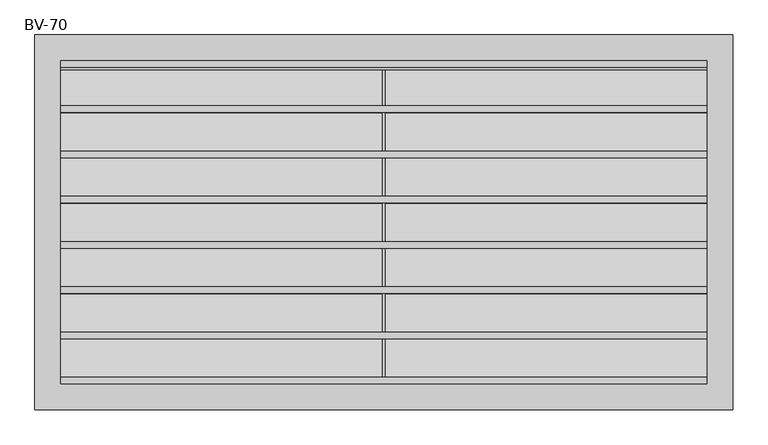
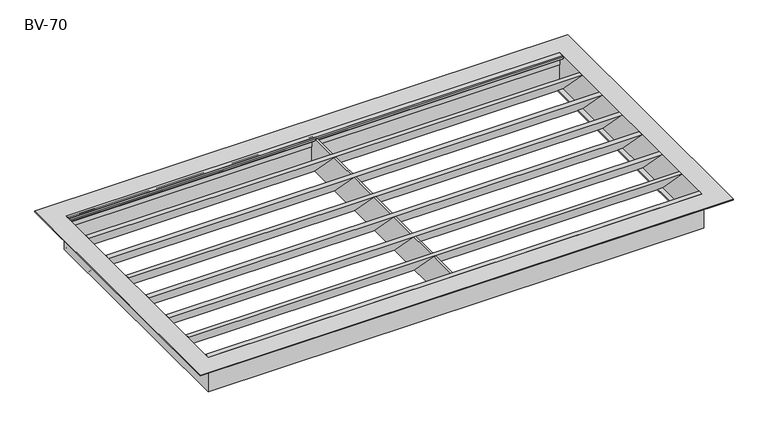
"""IFC4 building model written with IfcOpenShell, lengths in millimetres: air terminal geometry, AIR_FB_Outside air grille BV_SMA : BV-70."""

from ifc_helpers import new_model, si_unit, frame, origin, place, context, project, spatial, polyline, outline, extrude, faceted_brep, source, transform, mapped, element, save


def bv_70_c8e80291(model_context):
    return source(origin(), model_context, "Body", "SolidModel", [
        extrude(outline(polyline([(180.0694981, 2.0), (180.0694981, 0.6939238), (172.3735338, 0.6939238), (239.9430991, -68.8), (248.800293, -68.8), (248.800293, -66.5069251), (245.903107, -63.6097391), (246.7462329, -62.7666133), (249.9828093, -66.0031897), (249.9828093, -70.0), (240.0, -70.0), (170.0694981, 2.0), (180.0694981, 2.0)])), frame((-500.0, 0.0, 0.0), z_axis=(1.0, 0.0, 0.0), x_axis=(0.0, 1.0, 0.0)), (0.0, 0.0, 1.0), 1000.0),
        extrude(outline(polyline([(110.0694981, 2.0), (110.0694981, 0.6939238), (102.3735338, 0.6939238), (169.9430991, -68.8), (178.800293, -68.8), (178.800293, -66.5069251), (175.903107, -63.6097391), (176.7462329, -62.7666133), (179.9828093, -66.0031897), (179.9828093, -70.0), (170.0, -70.0), (100.0694981, 2.0), (110.0694981, 2.0)])), frame((-500.0, 0.0, 0.0), z_axis=(1.0, 0.0, 0.0), x_axis=(0.0, 1.0, 0.0)), (0.0, 0.0, 1.0), 1000.0),
        extrude(outline(polyline([(40.0694981, 2.0), (40.0694981, 0.6939238), (32.3735338, 0.6939238), (99.9430991, -68.8), (108.800293, -68.8), (108.800293, -66.5069251), (105.903107, -63.6097391), (106.7462329, -62.7666133), (109.9828093, -66.0031897), (109.9828093, -70.0), (100.0, -70.0), (30.0694981, 2.0), (40.0694981, 2.0)])), frame((-500.0, 0.0, 0.0), z_axis=(1.0, 0.0, 0.0), x_axis=(0.0, 1.0, 0.0)), (0.0, 0.0, 1.0), 1000.0),
        extrude(outline(polyline([(-29.9305019, 2.0), (-29.9305019, 0.6939238), (-37.6264662, 0.6939238), (29.9430991, -68.8), (38.800293, -68.8), (38.800293, -66.5069251), (35.903107, -63.6097391), (36.7462329, -62.7666133), (39.9828093, -66.0031897), (39.9828093, -70.0), (30.0, -70.0), (-39.9305019, 2.0), (-29.9305019, 2.0)])), frame((-500.0, 0.0, 0.0), z_axis=(1.0, 0.0, 0.0), x_axis=(0.0, 1.0, 0.0)), (0.0, 0.0, 1.0), 1000.0),
        extrude(outline(polyline([(-99.9305019, 2.0), (-99.9305019, 0.6939238), (-107.6264662, 0.6939238), (-40.0569009, -68.8), (-31.199707, -68.8), (-31.199707, -66.5069251), (-34.096893, -63.6097391), (-33.2537671, -62.7666133), (-30.0171907, -66.0031897), (-30.0171907, -70.0), (-40.0, -70.0), (-109.9305019, 2.0), (-99.9305019, 2.0)])), frame((-500.0, 0.0, 0.0), z_axis=(1.0, 0.0, 0.0), x_axis=(0.0, 1.0, 0.0)), (0.0, 0.0, 1.0), 1000.0),
        extrude(outline(polyline([(-169.9305019, 2.0), (-169.9305019, 0.6939238), (-177.6264662, 0.6939238), (-110.0569009, -68.8), (-101.199707, -68.8), (-101.199707, -66.5069251), (-104.096893, -63.6097391), (-103.2537671, -62.7666133), (-100.0171907, -66.0031897), (-100.0171907, -70.0), (-110.0, -70.0), (-179.9305019, 2.0), (-169.9305019, 2.0)])), frame((-500.0, 0.0, 0.0), z_axis=(1.0, 0.0, 0.0), x_axis=(0.0, 1.0, 0.0)), (0.0, 0.0, 1.0), 1000.0),
        extrude(outline(polyline([(250.0694981, 2.0), (250.0694981, 0.6939238), (242.3735338, 0.6939238), (250.0, -9.8603989), (250.0, -11.0), (240.0694981, 2.0), (250.0694981, 2.0)])), frame((-500.0, 0.0, 0.0), z_axis=(1.0, 0.0, 0.0), x_axis=(0.0, 1.0, 0.0)), (0.0, 0.0, 1.0), 1000.0),
        extrude(outline(polyline([(-239.9305019, 2.0), (-239.9305019, 0.6939238), (-247.6264662, 0.6939238), (-180.0569009, -68.8), (-171.199707, -68.8), (-171.199707, -66.5069251), (-174.096893, -63.6097391), (-173.2537671, -62.7666133), (-170.0171907, -66.0031897), (-170.0171907, -70.0), (-180.0, -70.0), (-249.9305019, 2.0), (-239.9305019, 2.0)])), frame((-500.0, 0.0, 0.0), z_axis=(1.0, 0.0, 0.0), x_axis=(0.0, 1.0, 0.0)), (0.0, 0.0, 1.0), 1000.0),
        extrude(outline(polyline([(2.0, 250.0), (2.0, -250.0), (-2.0, -250.0), (-2.0, 250.0), (2.0, 250.0)])), frame((0.0, 0.0, -70.0), z_axis=(0.0, 0.0, 1.0), x_axis=(1.0, 0.0, 0.0)), (0.0, 0.0, 1.0), 70.0),
        extrude(outline(polyline([(246.070888, 2.0), (250.0, -1.929112), (250.0, -23.0), (249.0, -23.0), (249.0, -2.547689), (245.57333, 0.800048), (237.270717, 0.800048), (237.270717, -1.50293), (240.44955, -4.681885), (239.600795, -5.529785), (236.070766, -2.000489), (236.070766, 2.0), (246.070888, 2.0)])), frame((-500.0, 0.0, 0.0), z_axis=(1.0, 0.0, 0.0), x_axis=(0.0, 1.0, 0.0)), (0.0, 0.0, 1.0), 1000.0),
        faceted_brep([(490.0, 240.0, -68.0), (490.0, 240.0, -70.0), (490.0, -240.0, -70.0), (490.0, -240.0, -68.0), (500.0, 250.0, 2.0), (500.0, 250.0, -68.0), (500.0, -250.0, -68.0), (500.0, -250.0, 2.0), (540.0, 290.0, 0.0), (540.0, 290.0, 2.0), (540.0, -290.0, 2.0), (540.0, -290.0, 0.0), (502.000122, 252.000122, -70.0), (502.000122, 252.000122, 0.0), (502.000122, -252.000122, 0.0), (502.000122, -252.000122, -70.0), (-490.0, -240.0, -70.0), (-490.0, -240.0, -68.0), (-500.0, -250.0, -68.0), (-500.0, -250.0, 2.0), (-540.0, -290.0, 2.0), (-540.0, -290.0, 0.0), (-502.000122, -252.000122, 0.0), (-502.000122, -252.000122, -70.0), (-490.0, 240.0, -70.0), (-490.0, 240.0, -68.0), (-500.0, 250.0, -68.0), (-500.0, 250.0, 2.0), (-540.0, 290.0, 2.0), (-540.0, 290.0, 0.0), (-502.000122, 252.000122, 0.0), (-502.000122, 252.000122, -70.0)], [[[0, 1, 2, 3]], [[4, 5, 6, 7]], [[8, 9, 10, 11]], [[12, 13, 14, 15]], [[3, 2, 16, 17]], [[7, 6, 18, 19]], [[11, 10, 20, 21]], [[15, 14, 22, 23]], [[17, 16, 24, 25]], [[19, 18, 26, 27]], [[21, 20, 28, 29]], [[23, 22, 30, 31]], [[15, 23, 31, 12], [1, 24, 16, 2]], [[25, 24, 1, 0]], [[5, 26, 18, 6], [3, 17, 25, 0]], [[27, 26, 5, 4]], [[9, 28, 20, 10], [7, 19, 27, 4]], [[29, 28, 9, 8]], [[11, 21, 29, 8], [13, 30, 22, 14]], [[31, 30, 13, 12]]]),
    ])


if __name__ == "__main__":
    model = new_model("IFC4")
    model_context = context("Model", 3, world=origin())
    ifc_project = project(units=[si_unit("LENGTHUNIT", "METRE", prefix="MILLI")], contexts=[model_context])
    site = spatial("IfcSite", under=ifc_project)
    building = spatial("IfcBuilding", under=site)
    placement = place(None, origin())
    bv_70_shape = bv_70_c8e80291(model_context)
    element("IfcAirTerminal", 1, ObjectType="AIR_FB_Outside air grille BV_SMA : BV-70", at=placement, inside=building, context=model_context, shape_type="MappedRepresentation", body=[
        mapped(bv_70_shape, transform((0.0, 0.0, 0.0), x_axis=(1.0, 0.0, 0.0), y_axis=(0.0, 1.0, 0.0), z_axis=(0.0, 0.0, 1.0))),
    ])
    save(model, "model.ifc")
